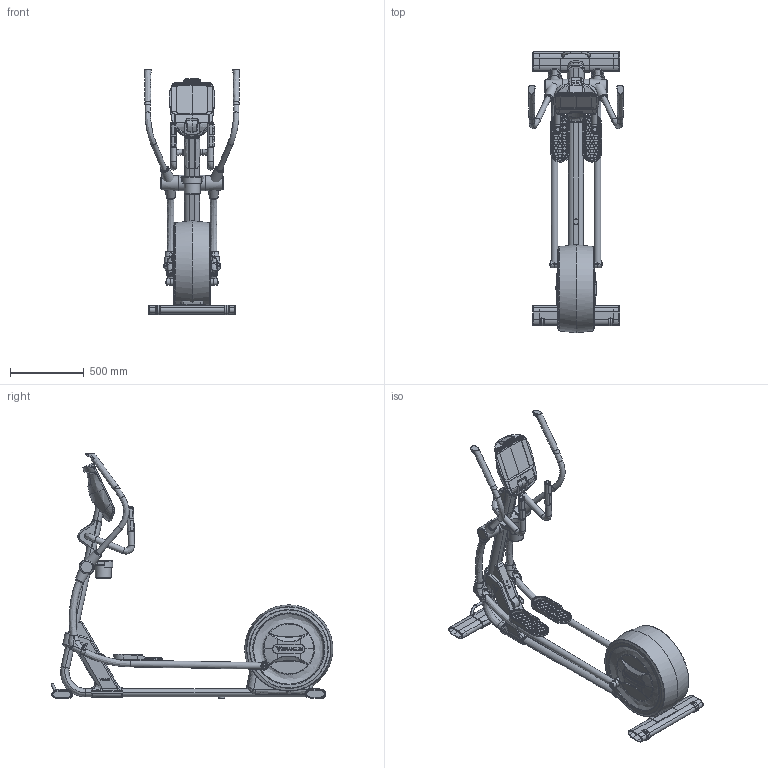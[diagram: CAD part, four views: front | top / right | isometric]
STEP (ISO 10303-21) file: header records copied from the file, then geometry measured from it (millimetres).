
FILE_DESCRIPTION(('HOOPS Exchange Step'),'2;1');
FILE_NAME('D:\Área de trabalho\VE70\STEP\VE70.stp','2025-06-18T15:25:26-03:00',('Brun0'),('Unknown organisation'),'HOOPS Exchange 2024.2','HOOPS Exchange','Unknown authorisation');
FILE_SCHEMA( ('AP203_CONFIGURATION_CONTROLLED_3D_DESIGN_OF_MECHANICAL_PARTS_AND_ASSEMBLIES_MIM_LF') );
Length unit declared in the file: millimetre
Products named in the file (3): 0; root
Assembly tree (2 placements, depth 2):
  root
    0
    0
Bounding box: 641.1 x 1903.58 x 1660.42 mm (x, y, z)
Volume: 58084991.5 mm3; surface area: 5703843.1 mm2
Topology: 68 solids, 124 shells, 2425 faces, 6137 edges, 4225 vertices
Faces by surface type: bspline 2425
Entity records: 288720 total; most frequent: CARTESIAN_POINT 251100, ORIENTED_EDGE 11582, EDGE_CURVE 6112, B_SPLINE_CURVE_WITH_KNOTS 5266, VERTEX_POINT 4233, EDGE_LOOP 2835, FACE_BOUND 2835, ADVANCED_FACE 2425
